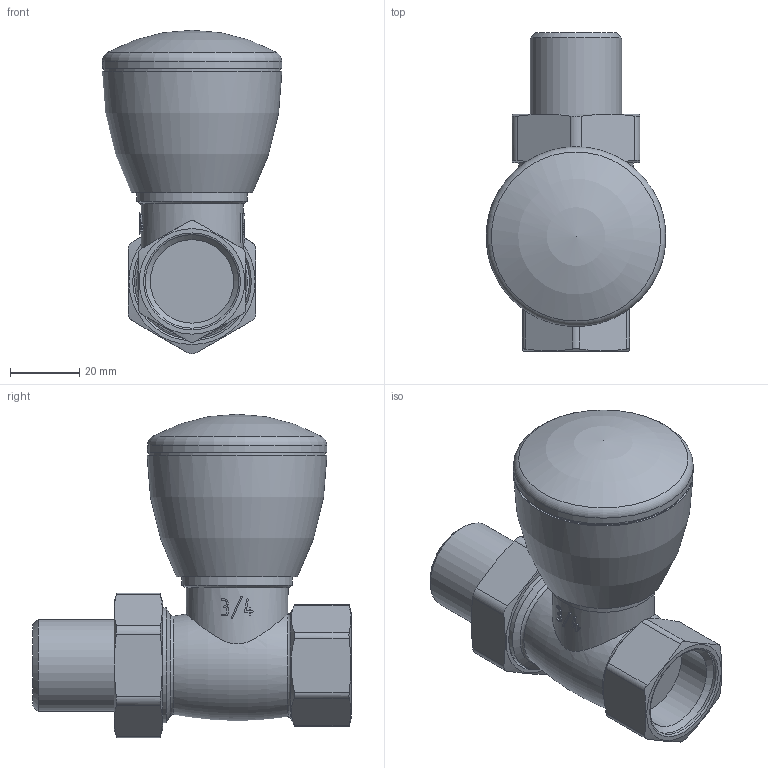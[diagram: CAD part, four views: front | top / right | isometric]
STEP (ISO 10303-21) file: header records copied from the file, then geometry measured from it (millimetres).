
FILE_DESCRIPTION(('STEP AP203'), '1');
FILE_NAME('VT.008.N.05', '2024-06-26T11:04:54', ('User'), ('Vesta'), 'C3D Converter', 'C3D Toolkit', '');
FILE_SCHEMA(('CONFIG_CONTROL_DESIGN'));
Length unit declared in the file: millimetre
Products named in the file (1): ВР.493176.005.000 СБ
Bounding box: 52 x 92.03 x 93.5 mm (x, y, z)
Volume: 151712.8 mm3; surface area: 22352.5 mm2
Topology: 1 solids, 1 shells, 161 faces, 428 edges, 281 vertices
Faces by surface type: plane 62, extrusion 53, cylinder 28, cone 9, torus 7, bspline 1, sphere 1
Full cylindrical faces by diameter (mm): 24.118 x1, 26.441 x1, 27 x2, 29.5 x1, 32 x1, 33.249 x1, 51 x1, 52 x1
Entity records: 8532 total; most frequent: CARTESIAN_POINT 4905, ORIENTED_EDGE 816, DIRECTION 559, EDGE_CURVE 408, VERTEX_POINT 283, B_SPLINE_CURVE_WITH_KNOTS 217, VECTOR 203, EDGE_LOOP 193
